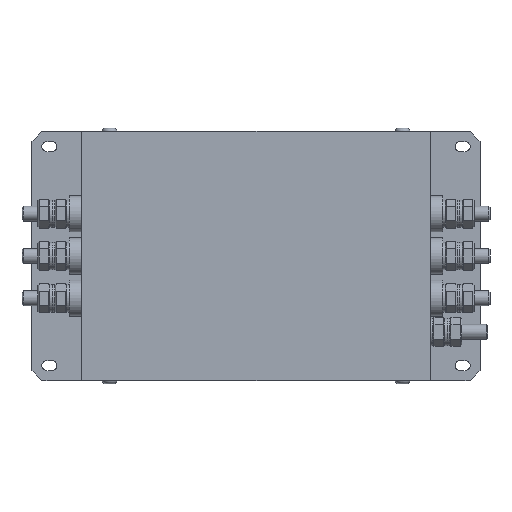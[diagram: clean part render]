
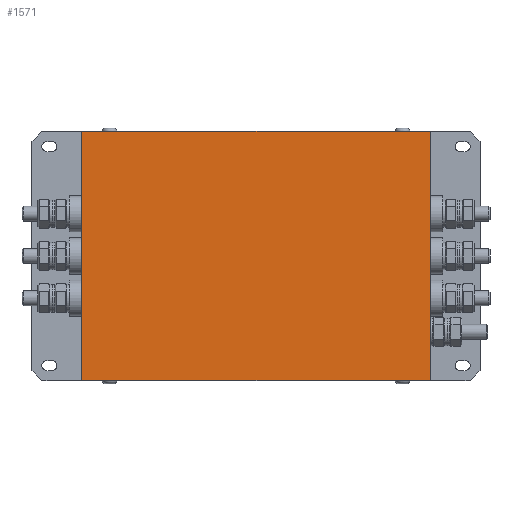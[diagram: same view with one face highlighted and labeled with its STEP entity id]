
A CAD part, top view. The second image highlights one B-rep face of the part: STEP entity #1571.
In plain terms, the highlighted planar face has unit normal (0, 0, 1).
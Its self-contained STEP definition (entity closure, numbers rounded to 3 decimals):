
#1571=ADVANCED_FACE('',(#2103),#2105,.T.);
#2103=FACE_BOUND('',#2104,.T.);
#2104=EDGE_LOOP('',(#2799,#2800,#2801,#2802));
#2105=PLANE('',#2106);
#2106=AXIS2_PLACEMENT_3D('',#2107,#2108,#2109);
#2107=CARTESIAN_POINT('',(0.,0.,40.));
#2108=DIRECTION('',(0.,0.,1.));
#2109=DIRECTION('',(-1.,0.,0.));
#2799=ORIENTED_EDGE('',*,*,#3125,.T.);
#2800=ORIENTED_EDGE('',*,*,#3101,.T.);
#2801=ORIENTED_EDGE('',*,*,#3123,.T.);
#2802=ORIENTED_EDGE('',*,*,#3126,.T.);
#3101=EDGE_CURVE('',#3272,#3270,#3273,.T.);
#3123=EDGE_CURVE('',#3270,#3313,#3315,.T.);
#3125=EDGE_CURVE('',#3317,#3272,#3318,.T.);
#3126=EDGE_CURVE('',#3313,#3317,#3319,.T.);
#3270=VERTEX_POINT('',#3565);
#3272=VERTEX_POINT('',#3569);
#3273=LINE('',#3570,#3571);
#3313=VERTEX_POINT('',#3659);
#3315=LINE('',#3663,#3664);
#3317=VERTEX_POINT('',#3669);
#3318=LINE('',#3670,#3671);
#3319=LINE('',#3673,#3674);
#3565=CARTESIAN_POINT('',(42.5,36.5,40.));
#3569=CARTESIAN_POINT('',(42.5,-63.5,40.));
#3570=CARTESIAN_POINT('',(42.5,-63.5,40.));
#3571=VECTOR('',#3572,1.);
#3572=DIRECTION('',(0.,1.,0.));
#3659=CARTESIAN_POINT('',(-97.5,36.5,40.));
#3663=CARTESIAN_POINT('',(42.5,36.5,40.));
#3664=VECTOR('',#3665,1.);
#3665=DIRECTION('',(-1.,0.,0.));
#3669=CARTESIAN_POINT('',(-97.5,-63.5,40.));
#3670=CARTESIAN_POINT('',(-97.5,-63.5,40.));
#3671=VECTOR('',#3672,1.);
#3672=DIRECTION('',(1.,0.,0.));
#3673=CARTESIAN_POINT('',(-97.5,36.5,40.));
#3674=VECTOR('',#3675,1.);
#3675=DIRECTION('',(0.,-1.,0.));
